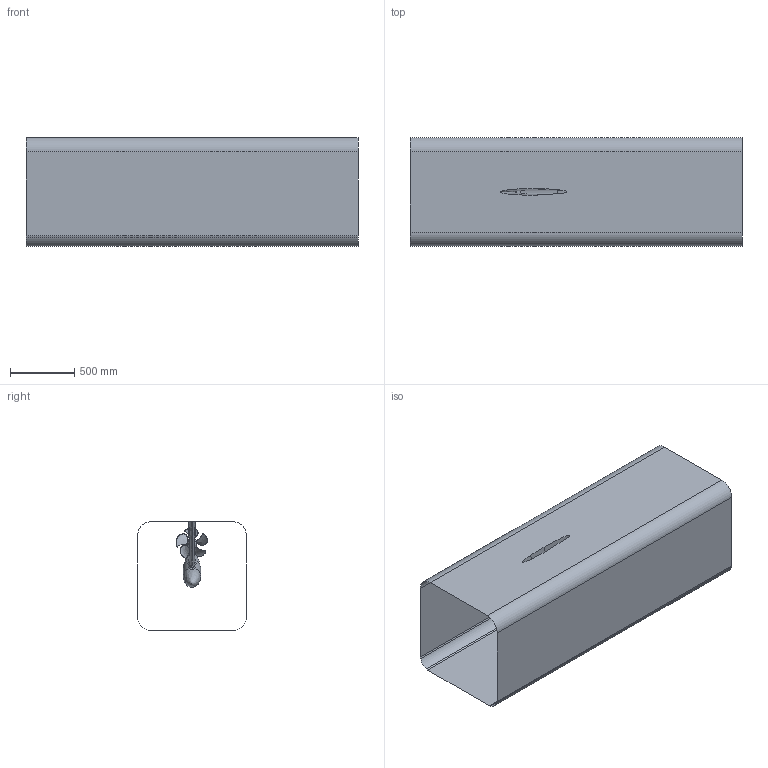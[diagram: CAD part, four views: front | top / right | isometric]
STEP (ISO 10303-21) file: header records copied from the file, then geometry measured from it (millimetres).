
FILE_DESCRIPTION(/* description */ (''),/* implementation_level */ '2;1');
FILE_NAME(/* name */ 'PPTC_SMP15.stp',/* time_stamp */ '2015-02-05T15:28:51+01:00',/* author */ ('Barkmann'),/* organization */ ('SVA-Potsdam'),/* preprocessor_version */ 'ST-DEVELOPER v15',/* originating_system */ 'SIEMENS PLM Software NX 9.0',/* authorisation */ '');
FILE_SCHEMA (('AP203_CONFIGURATION_CONTROLLED_3D_DESIGN_OF_MECHANICAL_PARTS_AND_ASSEMBLIES_MIM_LF { 1 0 10303 403 2 1 2}'));
Products named in the file (1): Bark24685257ayra
Bounding box: 2593.5 x 850 x 850 mm (x, y, z)
Surface area: 9186707.8 mm2 (no closed solid volume)
Topology: 0 solids, 1 shells, 65 faces, 175 edges, 115 vertices
Faces by surface type: bspline 43, plane 10, cylinder 8, revolution 3, cone 1
Full cylindrical faces by diameter (mm): 22 x1
Entity records: 35581 total; most frequent: CARTESIAN_POINT 34323, ORIENTED_EDGE 302, EDGE_CURVE 165, DIRECTION 113, VERTEX_POINT 110, B_SPLINE_CURVE_WITH_KNOTS 86, EDGE_LOOP 75, ADVANCED_FACE 65
